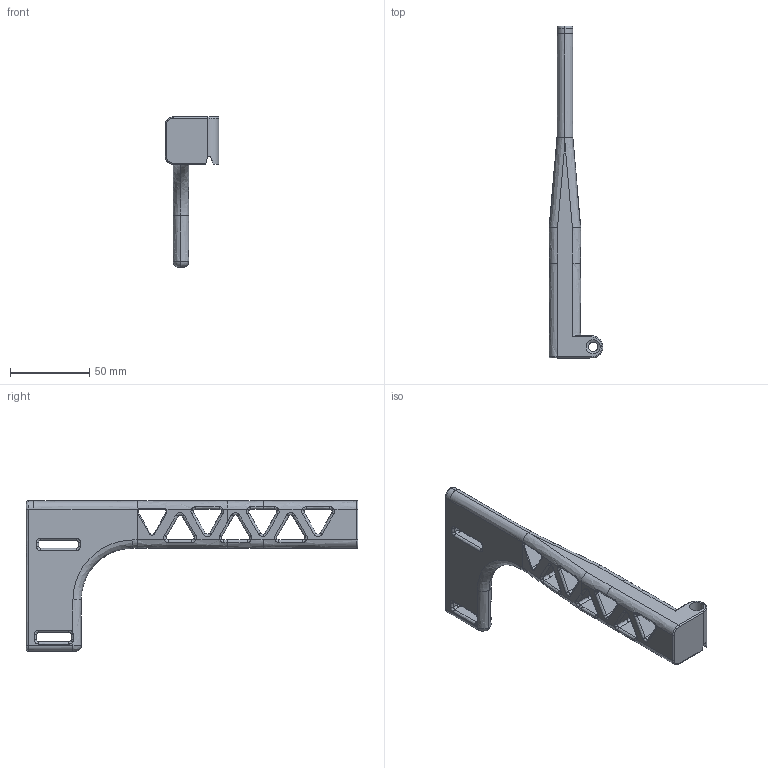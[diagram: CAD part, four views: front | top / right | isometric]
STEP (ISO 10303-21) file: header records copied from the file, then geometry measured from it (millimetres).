
FILE_DESCRIPTION(/* description */ (''),/* implementation_level */ '2;1');
FILE_NAME(/* name */ 'C:/Users/jeremy/OneDrive/Desktop/SpaceGat 22 Release/Brace Arm.step',/* time_stamp */ '2021-01-18T14:21:56-07:00',/* author */ (''),/* organization */ (''),/* preprocessor_version */ 'ST-DEVELOPER v18.1',/* originating_system */ 'Autodesk Translation Framework v9.7.1.1290',/* authorisation */ '');
FILE_SCHEMA (('AUTOMOTIVE_DESIGN { 1 0 10303 214 3 1 1 }'));
Length unit declared in the file: inch
Products named in the file (1): Space Gun Beta Ready
Bounding box: 34 x 210 x 95 mm (x, y, z)
Volume: 95902 mm3; surface area: 29849.7 mm2
Topology: 1 solids, 1 shells, 308 faces, 787 edges, 464 vertices
Faces by surface type: bspline 243, plane 48, cylinder 14, torus 2, cone 1
Full cylindrical faces by diameter (mm): 6 x1, 9 x1
Entity records: 19354 total; most frequent: CARTESIAN_POINT 14014, ORIENTED_EDGE 1574, EDGE_CURVE 787, B_SPLINE_CURVE_WITH_KNOTS 695, VERTEX_POINT 464, EDGE_LOOP 311, FACE_OUTER_BOUND 308, ADVANCED_FACE 308
